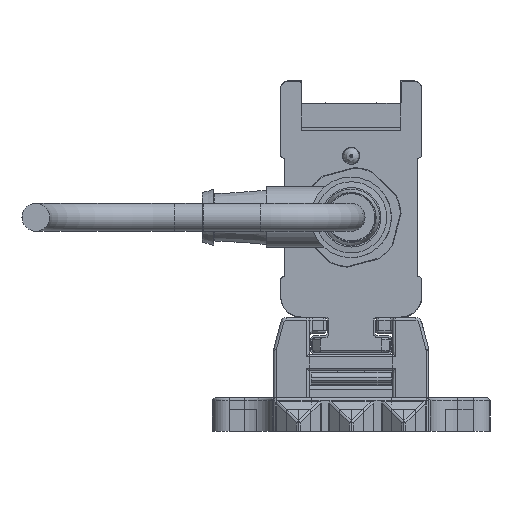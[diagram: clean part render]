
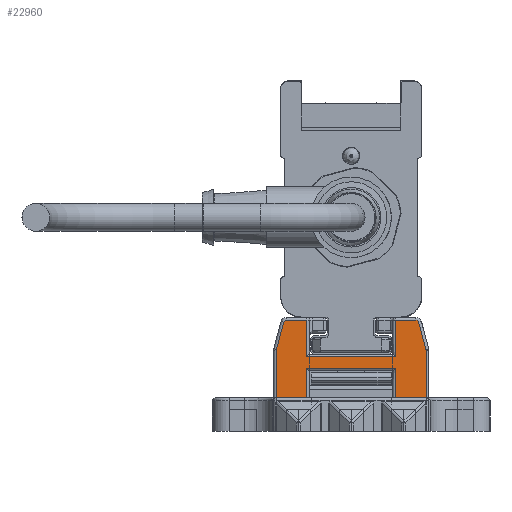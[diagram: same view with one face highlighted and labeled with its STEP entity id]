
A CAD part, left-side view. The second image highlights one B-rep face of the part: STEP entity #22960.
In plain terms, the highlighted planar face has unit normal (-1, 0, 0).
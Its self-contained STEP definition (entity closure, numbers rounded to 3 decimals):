
#22960=ADVANCED_FACE('', (#22970), #22980, .T.);
#93730=AXIS2_PLACEMENT_3D('Ax2Pl3d', #93740, #93750, #93760);
#93970=AXIS2_PLACEMENT_3D('Ax2Pl3d', #93980, #93990, #94000);
#98850=AXIS2_PLACEMENT_3D('Ax2Pl3d', #98860, #98870, #98880);
#103930=AXIS2_PLACEMENT_3D('Ax2Pl3d', #103940, #103950, #103960);
#113610=AXIS2_PLACEMENT_3D('Ax2Pl3d', #113620, #113630, #113640);
#322720=CARTESIAN_POINT('', (-747.669,-1206.345,
331.37));
#93740=CARTESIAN_POINT('HicPkt', (-747.669,-1205.379,
331.111));
#322730=CARTESIAN_POINT('', (-747.669,-1206.379,
331.111));
#322740=CARTESIAN_POINT('', (-747.669,-1205.037,336.255)
);
#322760=CARTESIAN_POINT('', (-747.669,-1205.037,336.255)
);
#322790=CARTESIAN_POINT('', (-747.669,-1204.554,
336.625));
#93980=CARTESIAN_POINT('HicPkt', (-747.669,-1204.554,
336.125));
#323010=CARTESIAN_POINT('', (-747.669,-1206.379,
322.625));
#323020=CARTESIAN_POINT('', (-747.669,-1200.881,
322.625));
#323030=CARTESIAN_POINT('', (-747.669,-1200.881,
322.625));
#323110=CARTESIAN_POINT('', (-747.669,-1184.881,
322.625));
#323120=CARTESIAN_POINT('', (-747.669,-1179.383,
322.625));
#323130=CARTESIAN_POINT('', (-747.669,-1179.383,
322.625));
#98860=CARTESIAN_POINT('HicPkt', (-747.669,-1181.209,
336.125));
#325600=CARTESIAN_POINT('', (-747.669,-1180.726,
336.255));
#325610=CARTESIAN_POINT('', (-747.669,-1181.209,
336.625));
#325620=CARTESIAN_POINT('', (-747.669,-1200.881,
330.025));
#325630=CARTESIAN_POINT('', (-747.669,-1184.881,330.025)
);
#325640=CARTESIAN_POINT('', (-747.669,-1200.881,
330.025));
#325800=CARTESIAN_POINT('', (-747.669,-1200.881,
328.005));
#325810=CARTESIAN_POINT('', (-747.669,-1184.881,
328.005));
#325820=CARTESIAN_POINT('', (-747.669,-1184.881,
328.005));
#325830=CARTESIAN_POINT('', (-747.669,-1200.881,
328.005));
#325850=CARTESIAN_POINT('', (-747.669,-1184.881,
322.625));
#325860=CARTESIAN_POINT('', (-747.669,-1184.881,330.025)
);
#325870=CARTESIAN_POINT('', (-747.669,-1184.881,
336.625));
#326720=CARTESIAN_POINT('', (-747.669,-1184.881,
336.625));
#326730=CARTESIAN_POINT('', (-747.669,-1180.726,
336.255));
#326740=CARTESIAN_POINT('', (-747.669,-1179.417,
331.37));
#326930=CARTESIAN_POINT('', (-747.669,-1179.383,
331.111));
#326940=CARTESIAN_POINT('', (-747.669,-1179.383,
331.111));
#103940=CARTESIAN_POINT('HicPkt', (-747.669,-1180.383,
331.111));
#327750=CARTESIAN_POINT('', (-747.669,-1206.379,
331.111));
#113620=CARTESIAN_POINT('HicPkt', (-747.669,-1204.554,
336.625));
#329550=CARTESIAN_POINT('', (-747.669,-1200.881,
336.625));
#329560=CARTESIAN_POINT('', (-747.669,-1200.881,
336.625));
#329570=CARTESIAN_POINT('', (-747.669,-1200.881,
336.625));
#369010=CIRCLE('Circle', #93730, 1.);
#369050=CIRCLE('Circle', #93970, 0.5);
#369630=CIRCLE('Circle', #98850, 0.5);
#370160=CIRCLE('Circle', #103930, 1.);
#93750=DIRECTION('Axis', (-1.,0.,0.)
);
#93760=DIRECTION('RefDirection', (0.,
0.,-1.));
#517530=DIRECTION('', (0.,0.259,
0.966));
#93990=DIRECTION('Axis', (-1.,0.,0.)
);
#94000=DIRECTION('RefDirection', (0.,
0.,-1.));
#517640=DIRECTION('', (0.,1.,0.));
#517680=DIRECTION('', (0.,1.,0.));
#98870=DIRECTION('Axis', (1.,0.,
0.));
#98880=DIRECTION('RefDirection', (0.,
0.,-1.));
#518870=DIRECTION('', (0.,-1.,0.));
#518970=DIRECTION('', (0.,1.,0.));
#518980=DIRECTION('', (0.,0.,1.));
#519000=DIRECTION('', (0.,0.,-1.));
#519010=DIRECTION('', (0.,0.,-1.));
#519440=DIRECTION('', (0.,-1.,0.));
#519450=DIRECTION('', (0.,-0.259,0.966));
#519540=DIRECTION('', (0.,0.,1.));
#103950=DIRECTION('Axis', (1.,0.,
0.));
#103960=DIRECTION('RefDirection', (0.,
0.,-1.));
#519910=DIRECTION('', (0.,0.,1.));
#113630=DIRECTION('Axis', (-1.,0.,
0.));
#113640=DIRECTION('RefDirection', (0.,
0.,-1.));
#520750=DIRECTION('', (0.,1.,0.));
#520760=DIRECTION('', (0.,0.,1.));
#562200=EDGE_CURVE('', #562210, #562190, #369010, .T.);
#562260=EDGE_CURVE('', #562190, #562240, #562270, .T.);
#562330=EDGE_CURVE('', #562240, #562320, #369050, .T.);
#562780=EDGE_CURVE('', #562770, #562790, #562800, .T.);
#562940=EDGE_CURVE('', #562930, #562950, #562960, .T.);
#567300=EDGE_CURVE('', #567310, #567320, #369630, .T.);
#567350=EDGE_CURVE('', #567360, #567370, #567380, .T.);
#567720=EDGE_CURVE('', #567700, #567730, #567740, .T.);
#567770=EDGE_CURVE('', #562790, #567700, #567780, .T.);
#567810=EDGE_CURVE('', #567730, #562930, #567820, .T.);
#567830=EDGE_CURVE('', #567840, #567360, #567850, .T.);
#569670=EDGE_CURVE('', #567320, #567840, #569680, .T.);
#569740=EDGE_CURVE('', #569750, #567310, #569760, .T.);
#570180=EDGE_CURVE('', #562950, #570190, #570200, .T.);
#570220=EDGE_CURVE('', #570190, #569750, #370160, .T.);
#571930=EDGE_CURVE('', #562770, #562210, #571940, .T.);
#575740=EDGE_CURVE('', #562320, #575750, #575760, .T.);
#575770=EDGE_CURVE('', #567370, #575750, #575780, .T.);
#683540=EDGE_LOOP('Edge_loop', (#683550,#683560,#683570,#683580,#683590,
#683600,#683610,#683620,#683630,#683640,#683650,#683660,#683670,#683680,
#683690,#683700,#683710,#683720));
#22970=FACE_OUTER_BOUND('Face_outer_bound', #683540, .T.);
#562270=LINE('Line', #322760, #765320);
#562800=LINE('Line', #323020, #765430);
#562960=LINE('Line', #323120, #765470);
#567380=LINE('Line', #325620, #766660);
#567740=LINE('Line', #325810, #766760);
#567780=LINE('Line', #325830, #766770);
#567820=LINE('Line', #325850, #766790);
#567850=LINE('Line', #325860, #766800);
#569680=LINE('Line', #326720, #767230);
#569760=LINE('Line', #326730, #767240);
#570200=LINE('Line', #326930, #767330);
#571940=LINE('Line', #327750, #767700);
#575760=LINE('Line', #329550, #768540);
#575780=LINE('Line', #329570, #768550);
#683550=ORIENTED_EDGE('', *, *, #575740, .T.);
#683560=ORIENTED_EDGE('', *, *, #575770, .F.);
#683570=ORIENTED_EDGE('', *, *, #567350, .F.);
#683580=ORIENTED_EDGE('', *, *, #567830, .F.);
#683590=ORIENTED_EDGE('', *, *, #569670, .F.);
#683600=ORIENTED_EDGE('', *, *, #567300, .F.);
#683610=ORIENTED_EDGE('', *, *, #569740, .F.);
#683620=ORIENTED_EDGE('', *, *, #570220, .F.);
#683630=ORIENTED_EDGE('', *, *, #570180, .F.);
#683640=ORIENTED_EDGE('', *, *, #562940, .F.);
#683650=ORIENTED_EDGE('', *, *, #567810, .F.);
#683660=ORIENTED_EDGE('', *, *, #567720, .F.);
#683670=ORIENTED_EDGE('', *, *, #567770, .F.);
#683680=ORIENTED_EDGE('', *, *, #562780, .F.);
#683690=ORIENTED_EDGE('', *, *, #571930, .T.);
#683700=ORIENTED_EDGE('', *, *, #562200, .T.);
#683710=ORIENTED_EDGE('', *, *, #562260, .T.);
#683720=ORIENTED_EDGE('', *, *, #562330, .T.);
#22980=PLANE('Plane', #113610);
#765320=VECTOR('', #517530, 5.057);
#765430=VECTOR('', #517640, 5.498);
#765470=VECTOR('', #517680, 5.498);
#766660=VECTOR('', #518870, 16.);
#766760=VECTOR('', #518970, 16.);
#766770=VECTOR('', #518980, 5.38);
#766790=VECTOR('', #519000, 5.38);
#766800=VECTOR('', #519010, 6.6);
#767230=VECTOR('', #519440, 3.672);
#767240=VECTOR('', #519450, 5.057);
#767330=VECTOR('', #519540, 8.486);
#767700=VECTOR('', #519910, 8.486);
#768540=VECTOR('', #520750, 3.672);
#768550=VECTOR('', #520760, 6.6);
#562190=VERTEX_POINT('', #322720);
#562210=VERTEX_POINT('', #322730);
#562240=VERTEX_POINT('', #322740);
#562320=VERTEX_POINT('', #322790);
#562770=VERTEX_POINT('', #323010);
#562790=VERTEX_POINT('', #323030);
#562930=VERTEX_POINT('', #323110);
#562950=VERTEX_POINT('', #323130);
#567310=VERTEX_POINT('', #325600);
#567320=VERTEX_POINT('', #325610);
#567360=VERTEX_POINT('', #325630);
#567370=VERTEX_POINT('', #325640);
#567700=VERTEX_POINT('', #325800);
#567730=VERTEX_POINT('', #325820);
#567840=VERTEX_POINT('', #325870);
#569750=VERTEX_POINT('', #326740);
#570190=VERTEX_POINT('', #326940);
#575750=VERTEX_POINT('', #329560);
